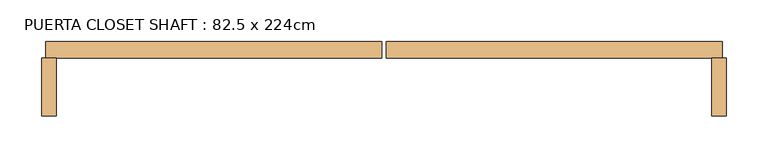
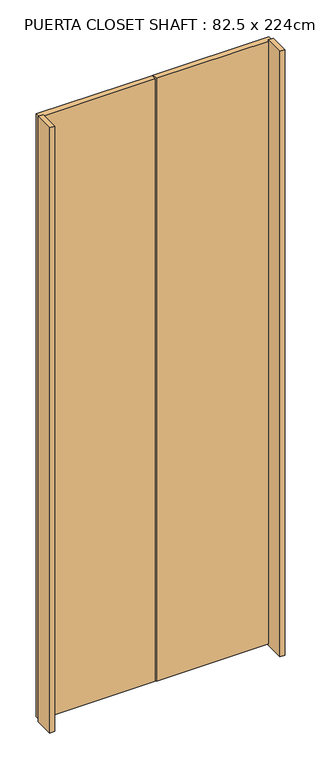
"""IFC4 building model written with IfcOpenShell, lengths in millimetres: door geometry, PUERTA CLOSET SHAFT : 82.5 x 224cm."""

from ifc_helpers import new_model, si_unit, frame, origin, origin_with_axes, place, context, project, spatial, polyline, outline, extrude, source, transform, mapped, element, save


def puerta_closet_shaft_82_5_x_224cm_10222c01(model_context):
    return source(origin(), model_context, "Body", "SweptSolid", [
        extrude(outline(polyline([(-1139.0315708, 35.0), (-1139.0315708, 55.0), (-734.0315708, 55.0), (-734.0315708, 35.0), (-1139.0315708, 35.0)])), frame((0.0, 0.0, 5.0), z_axis=(0.0, 0.0, 1.0), x_axis=(1.0, 0.0, 0.0)), (0.0, 0.0, 1.0), 2230.0),
        extrude(outline(polyline([(-1144.0315708, 35.0), (-1549.0315708, 35.0), (-1549.0315708, 55.0), (-1144.0315708, 55.0), (-1144.0315708, 35.0)])), frame((0.0, 0.0, 5.0), z_axis=(0.0, 0.0, 1.0), x_axis=(1.0, 0.0, 0.0)), (0.0, 0.0, 1.0), 2230.0),
        extrude(outline(polyline([(-729.0315708, 35.0), (-729.0315708, -35.0), (-747.0315708, -35.0), (-747.0315708, 35.0), (-729.0315708, 35.0)])), origin_with_axes(), (0.0, 0.0, 1.0), 2240.0),
        extrude(outline(polyline([(-1536.0315708, 35.0), (-1536.0315708, -35.0), (-1554.0315708, -35.0), (-1554.0315708, 35.0), (-1536.0315708, 35.0)])), origin_with_axes(), (0.0, 0.0, 1.0), 2240.0),
    ])


if __name__ == "__main__":
    model = new_model("IFC4")
    model_context = context("Model", 3, world=origin())
    ifc_project = project(units=[si_unit("LENGTHUNIT", "METRE", prefix="MILLI")], contexts=[model_context])
    site = spatial("IfcSite", under=ifc_project)
    building = spatial("IfcBuilding", under=site)
    placement = place(None, origin())
    puerta_closet_shaft_82_5_x_224cm_shape = puerta_closet_shaft_82_5_x_224cm_10222c01(model_context)
    element("IfcDoor", 1, ObjectType="PUERTA CLOSET SHAFT : 82.5 x 224cm", at=placement, inside=building, context=model_context, shape_type="MappedRepresentation", body=[
        mapped(puerta_closet_shaft_82_5_x_224cm_shape, transform((0.0, 0.0, 0.0), x_axis=(1.0, 0.0, 0.0), y_axis=(0.0, 1.0, 0.0), z_axis=(0.0, 0.0, 1.0))),
    ])
    save(model, "model.ifc")
